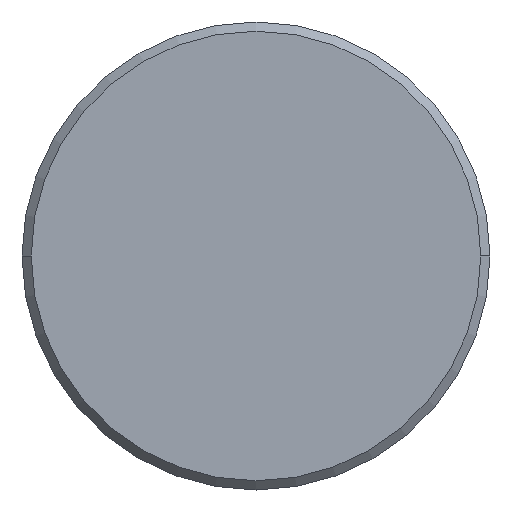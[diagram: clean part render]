
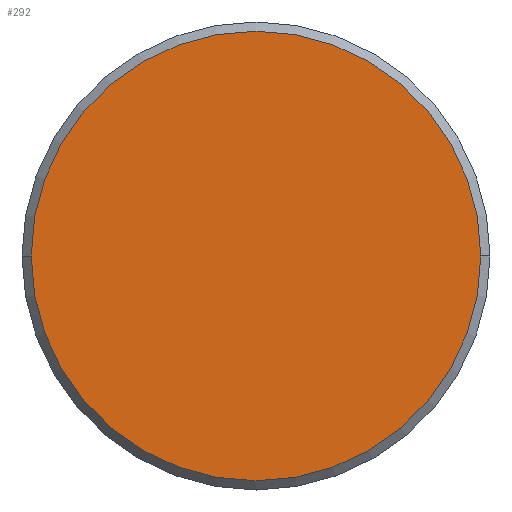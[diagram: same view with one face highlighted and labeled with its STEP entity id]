
A CAD part, left-side view. The second image highlights one B-rep face of the part: STEP entity #292.
In plain terms, the highlighted planar face has unit normal (-1, 0, 0).
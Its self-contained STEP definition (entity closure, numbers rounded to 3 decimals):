
#2 = AXIS2_PLACEMENT_3D ( 'NONE', #161, #347, #51 ) ;
#13 = CIRCLE ( 'NONE', #16, 12.2 ) ;
#16 = AXIS2_PLACEMENT_3D ( 'NONE', #145, #365, #179 ) ;
#20 = VERTEX_POINT ( 'NONE', #332 ) ;
#51 = DIRECTION ( 'NONE',  ( 0., 1., 0. ) ) ;
#62 = ORIENTED_EDGE ( 'NONE', *, *, #238, .F. ) ;
#93 = CIRCLE ( 'NONE', #2, 12.2 ) ;
#101 = AXIS2_PLACEMENT_3D ( 'NONE', #349, #409, #236 ) ;
#112 = PLANE ( 'NONE',  #101 ) ;
#113 = VERTEX_POINT ( 'NONE', #205 ) ;
#140 = ORIENTED_EDGE ( 'NONE', *, *, #262, .F. ) ;
#145 = CARTESIAN_POINT ( 'NONE',  ( -75.2, 0., 0. ) ) ;
#161 = CARTESIAN_POINT ( 'NONE',  ( -75.2, 0., 0. ) ) ;
#179 = DIRECTION ( 'NONE',  ( 0., 1., 0. ) ) ;
#205 = CARTESIAN_POINT ( 'NONE',  ( -75.2, -12.2, 0. ) ) ;
#236 = DIRECTION ( 'NONE',  ( 0., -1., 0. ) ) ;
#238 = EDGE_CURVE ( 'NONE', #20, #113, #13, .T. ) ;
#262 = EDGE_CURVE ( 'NONE', #113, #20, #93, .T. ) ;
#292 = ADVANCED_FACE ( 'NONE', ( #395 ), #112, .T. ) ;
#332 = CARTESIAN_POINT ( 'NONE',  ( -75.2, 12.2, 0. ) ) ;
#347 = DIRECTION ( 'NONE',  ( 1., 0., 0. ) ) ;
#349 = CARTESIAN_POINT ( 'NONE',  ( -75.2, 0., 0. ) ) ;
#365 = DIRECTION ( 'NONE',  ( 1., 0., 0. ) ) ;
#394 = EDGE_LOOP ( 'NONE', ( #62, #140 ) ) ;
#395 = FACE_OUTER_BOUND ( 'NONE', #394, .T. ) ;
#409 = DIRECTION ( 'NONE',  ( -1., 0., 0. ) ) ;
